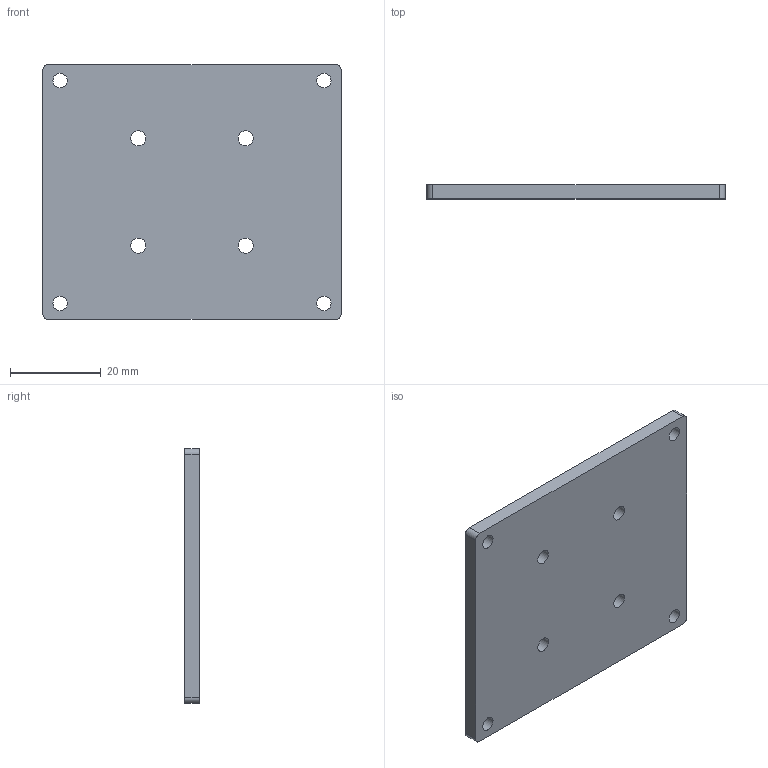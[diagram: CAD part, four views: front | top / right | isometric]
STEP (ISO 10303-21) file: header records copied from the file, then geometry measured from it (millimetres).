
FILE_DESCRIPTION(/* description */ (''),/* implementation_level */ '2;1');
FILE_NAME(/* name */ 'C:/Users/lshea/Documents/ProteShea/CAD/BLDC Motor Adapter Plate.step',/* time_stamp */ '2019-06-11T08:08:08-04:00',/* author */ (''),/* organization */ (''),/* preprocessor_version */ 'ST-DEVELOPER v18',/* originating_system */ 'Autodesk Translation Framework v8.2.0.1029',/* authorisation */ '');
FILE_SCHEMA (('AUTOMOTIVE_DESIGN { 1 0 10303 214 3 1 1 }'));
Length unit declared in the file: millimetre
Products named in the file (1): Brushless DC Adapter Plate
Bounding box: 65.61 x 3.17 x 56.03 mm (x, y, z)
Volume: 11458.2 mm3; surface area: 8241.7 mm2
Topology: 1 solids, 1 shells, 18 faces, 48 edges, 32 vertices
Faces by surface type: cylinder 12, plane 6
Full cylindrical faces by diameter (mm): 3.175 x4, 3.302 x4
Entity records: 641 total; most frequent: DIRECTION 110, CARTESIAN_POINT 99, ORIENTED_EDGE 96, EDGE_CURVE 48, AXIS2_PLACEMENT_3D 43, EDGE_LOOP 34, VERTEX_POINT 32, LINE 24
